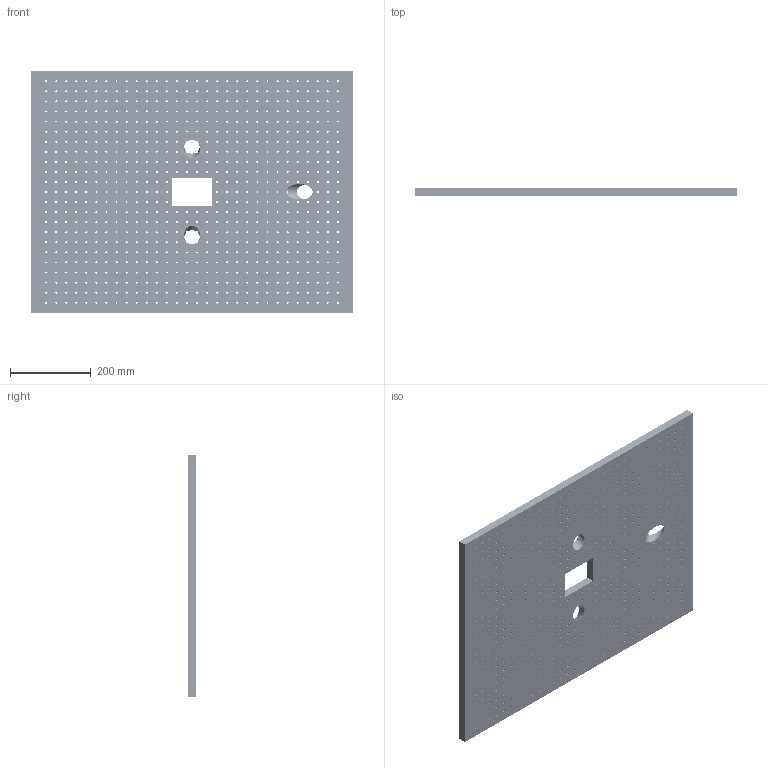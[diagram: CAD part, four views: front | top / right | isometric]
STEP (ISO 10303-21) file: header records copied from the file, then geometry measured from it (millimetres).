
FILE_DESCRIPTION (( 'STEP AP214' ), '1' );
FILE_NAME ('316L_TOP.STEP', '2026-10-12T07:04:35', ( '' ), ( '' ), 'SwSTEP 2.0', 'SolidWorks 2022', '' );
FILE_SCHEMA (( 'AUTOMOTIVE_DESIGN' ));
Length unit declared in the file: millimetre
Products named in the file (1): 316L_TOP
Bounding box: 800 x 20 x 600 mm (x, y, z)
Volume: 9098485.4 mm3; surface area: 1189274.3 mm2
Topology: 1 solids, 1 shells, 1361 faces, 3411 edges, 2051 vertices
Faces by surface type: cylinder 679, cone 672, plane 10
Full cylindrical faces by diameter (mm): 5 x668, 40 x3
Entity records: 44712 total; most frequent: DIRECTION 6776, CARTESIAN_POINT 5950, ORIENTED_EDGE 4134, EDGE_LOOP 4043, AXIS2_PLACEMENT_3D 3376, EDGE_CURVE 2067, VERTEX_POINT 2046, FACE_OUTER_BOUND 2032
